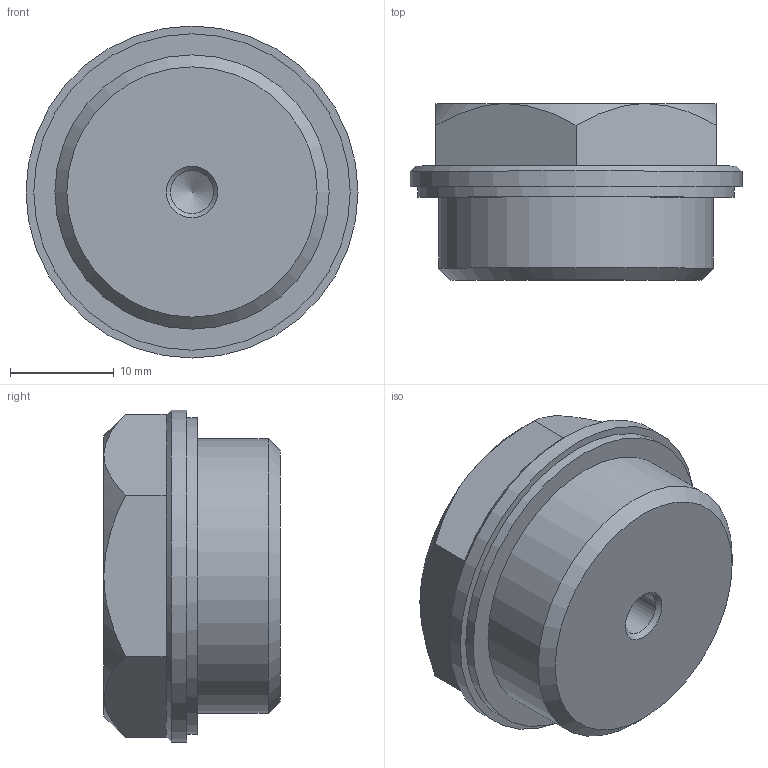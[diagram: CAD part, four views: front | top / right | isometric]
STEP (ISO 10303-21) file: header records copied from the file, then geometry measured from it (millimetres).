
FILE_DESCRIPTION( ( 'STEP AP203' ), '1' );
FILE_NAME( 'C:/Temp/Ganter_Step_05_03_2020/data/3_5/gn742/gn742_1/Threaded plug GN 742-32-G3_4-AS-1.stp', '2020-03-12T13:38:53', ( 'License CC BY-ND 4.0' ), ( 'CADENAS' ), ' ', 'PARTsolutions', ' ' );
FILE_SCHEMA( ( 'CONFIG_CONTROL_DESIGN' ) );
Length unit declared in the file: millimetre
Products named in the file (1): _Threaded plug GN 742-32-G3/4-AS-1
Bounding box: 32 x 17 x 32 mm (x, y, z)
Volume: 10233.1 mm3; surface area: 3170.7 mm2
Topology: 1 solids, 1 shells, 63 faces, 149 edges, 92 vertices
Faces by surface type: plane 49, cone 10, cylinder 4
Full cylindrical faces by diameter (mm): 4.134 x1, 26.441 x1, 30.5 x1, 32 x1
Entity records: 1825 total; most frequent: CARTESIAN_POINT 378, DIRECTION 283, ORIENTED_EDGE 278, EDGE_CURVE 139, LINE 99, VECTOR 99, AXIS2_PLACEMENT_3D 92, VERTEX_POINT 91
